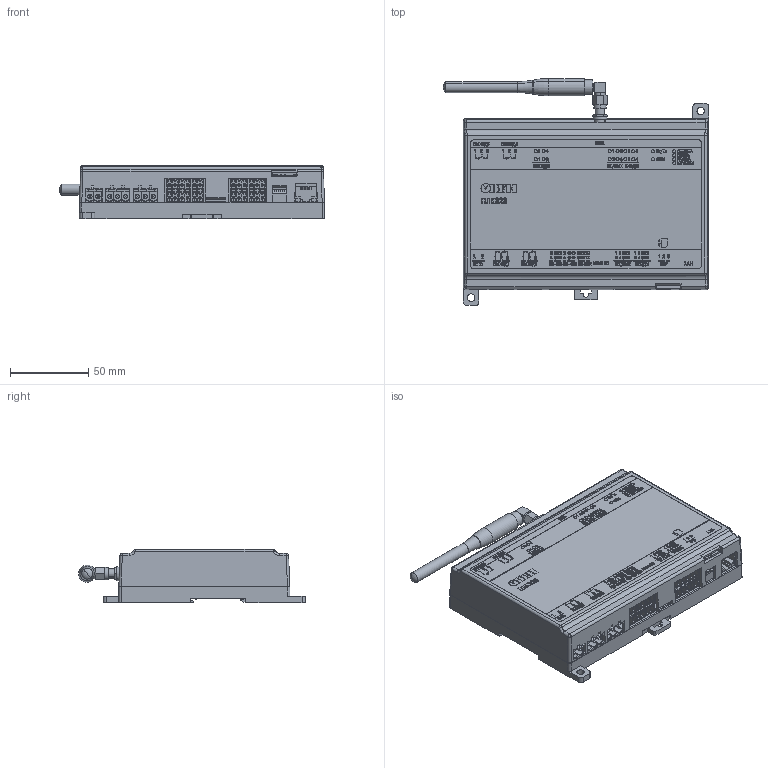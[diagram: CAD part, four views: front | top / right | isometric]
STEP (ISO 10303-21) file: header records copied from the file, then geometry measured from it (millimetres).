
FILE_DESCRIPTION (( 'STEP AP214' ), '1' );
FILE_NAME ('3D Ìîäåëü ÏËÊ323.STEP', '2015-12-11T13:26:40', ( '' ), ( '' ), 'SwSTEP 2.0', 'SolidWorks 2013', '' );
FILE_SCHEMA (( 'AUTOMOTIVE_DESIGN' ));
Length unit declared in the file: millimetre
Products named in the file (19): 冓踖樦 MCDNV 1,5_ 2-G1-3,5; Dip ïåðåêëþ÷àòåëü 3pin; Ethernet; Ïàíåëü ëèöåâàÿ ÏËÊ323; Ôèêñàòîð ÏËÊ323; 冓踖樦 2EDGR-5.08-2p; 冓踖樦 2EDGR-5.08-1p; Êîðïóñ ÏËÊ323_îñíîâàíèå; Êîðïóñ ÏËÊ323_âåðõ; Âèíò ÃÎÑÒ 17475_‚¨­â Œ3å8.56.019 ƒŽ‘’ 17475; 3D Ìîäåëü ÏËÊ323; Micro SD-瀁貗; Sim-瀁貗; Ãàéêà Ì6õ1,5; Àíòåííà_÷åõîë ÏËÊ323; ﾀ炅褊浯 ﾏﾋﾊ323; RCA; Øàéáà ãðîâåðà ÃÎÑÒ 6402_˜ ©¡  6.65ƒ.019 ƒŽ‘’ 6402; 冓踖樦 MCDNV 1,5_ 3-G1-3,5
Assembly tree (37 placements, depth 3):
  3D Ìîäåëü ÏËÊ323
    Êîðïóñ ÏËÊ323_âåðõ
    Êîðïóñ ÏËÊ323_îñíîâàíèå
    冓踖樦 2EDGR-5.08-1p  x12
    冓踖樦 2EDGR-5.08-2p
      冓踖樦 2EDGR-5.08-1p  x2
    Ôèêñàòîð ÏËÊ323
    Ïàíåëü ëèöåâàÿ ÏËÊ323
    Ethernet
    Dip ïåðåêëþ÷àòåëü 3pin
    冓踖樦 MCDNV 1,5_ 2-G1-3,5  x3
    冓踖樦 MCDNV 1,5_ 3-G1-3,5  x2
    Øàéáà ãðîâåðà ÃÎÑÒ 6402_˜ ©¡  6.65ƒ.019 ƒŽ‘’ 6402
    RCA
    ﾀ炅褊浯 ﾏﾋﾊ323
    Àíòåííà_÷åõîë ÏËÊ323
    Ãàéêà Ì6õ1,5
    Sim-瀁貗
    Micro SD-瀁貗
    Âèíò ÃÎÑÒ 17475_‚¨­â Œ3å8.56.019 ƒŽ‘’ 17475  x4
Bounding box: 169.72 x 145.27 x 34.2 mm (x, y, z)
Volume: 182543.3 mm3; surface area: 151918.9 mm2
Topology: 40 solids, 40 shells, 5427 faces, 14229 edges, 9379 vertices
Faces by surface type: plane 3922, bspline 1009, cylinder 420, cone 62, sphere 8, torus 6
Entity records: 178623 total; most frequent: CARTESIAN_POINT 37339, ORIENTED_EDGE 23220, DIRECTION 17022, EDGE_CURVE 11610, LINE 8898, VECTOR 8898, VERTEX_POINT 7697, EDGE_LOOP 4867
